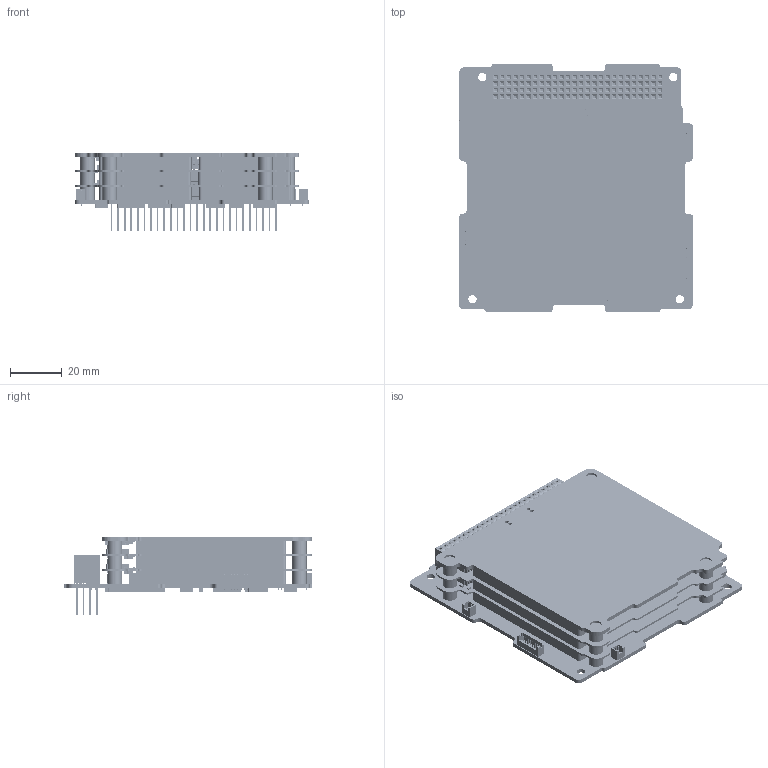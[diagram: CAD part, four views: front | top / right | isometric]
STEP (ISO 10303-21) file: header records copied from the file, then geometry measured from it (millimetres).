
FILE_DESCRIPTION (( 'STEP AP214' ), '1' );
FILE_NAME ('3D-01-02685 RevC_defeature.STEP', '2022-10-19T10:02:45', ( '' ), ( '' ), 'SwSTEP 2.0', 'SolidWorks 2021', '' );
FILE_SCHEMA (( 'AUTOMOTIVE_DESIGN' ));
Length unit declared in the file: millimetre
Products named in the file (1): 3D-01-02685 RevC_defeature
Bounding box: 90.17 x 98.82 x 30.39 mm (x, y, z)
Surface area: 117798.1 mm2 (no closed solid volume)
Topology: 0 solids, 113 shells, 12443 faces, 34200 edges, 22297 vertices
Faces by surface type: plane 9439, cylinder 2876, bspline 110, cone 18
Entity records: 396918 total; most frequent: CARTESIAN_POINT 76462, ORIENTED_EDGE 68209, DIRECTION 63615, EDGE_CURVE 34108, VECTOR 28043, LINE 28043, VERTEX_POINT 22276, AXIS2_PLACEMENT_3D 17786
